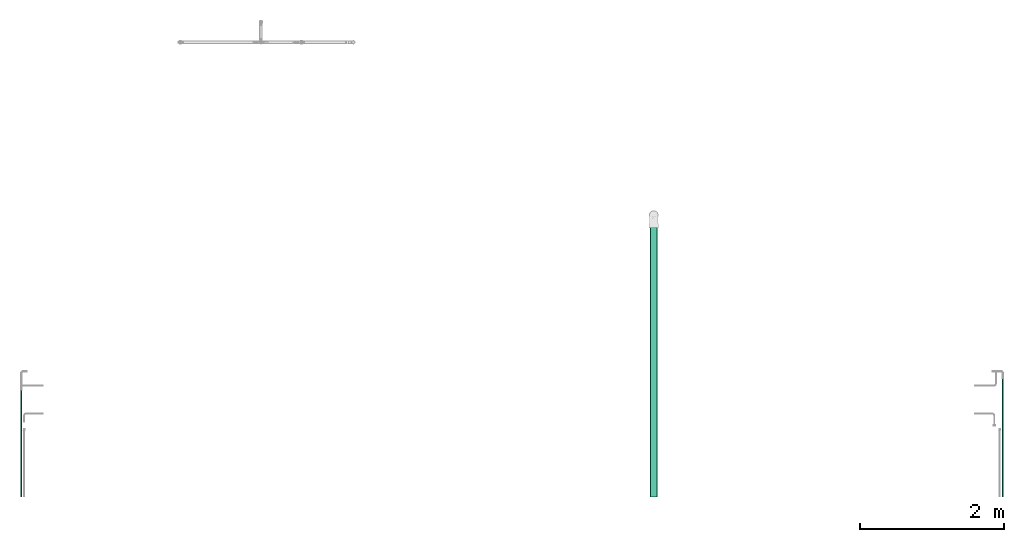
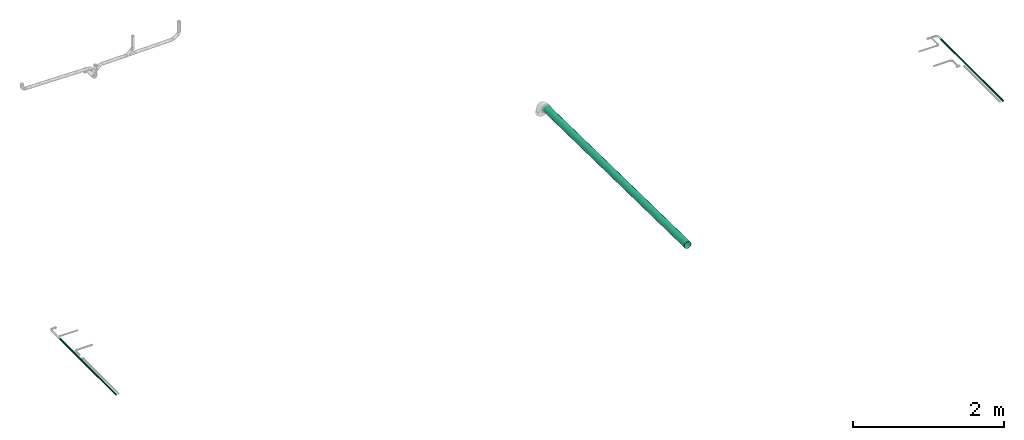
# One storey, part 10 of 13: 3 flow segments.
"""IFC2X3 building model written with IfcOpenShell, lengths in millimetres."""

from ifc_helpers import new_model, entity, si_unit, converted_unit, derived_unit, direction, frame, place, context, subcontext, project, spatial, faceted_brep, type_object, element, save


model = new_model("IFC2X3")

# Units and contexts
model_context = context("Model", 3, precision=0.01, world=frame((0.0, 4.29681676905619e-09, 0.0)), true_north=direction((4.01073788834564e-13, 1.0)))
plan_context = context("Plan", 3, precision=0.01, world=frame((0.0, 4.29681676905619e-09, 0.0)), true_north=direction((4.01073788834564e-13, 1.0)))
body_context = subcontext(model_context, "Body", "Model", "MODEL_VIEW")
ifc_project = project(units=[converted_unit("PLANEANGLEUNIT", "DEGREE", entity("IfcPositiveLengthMeasure", 0.0174532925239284), si_unit("PLANEANGLEUNIT", "RADIAN"), dimensions=[0, 0, 0, 0, 0, 0, 0]), si_unit("AREAUNIT", "SQUARE_METRE"), si_unit("LENGTHUNIT", "METRE", prefix="MILLI"), si_unit("MASSUNIT", "GRAM", prefix="KILO"), si_unit("POWERUNIT", "WATT"), si_unit("PRESSUREUNIT", "PASCAL", prefix="KILO"), si_unit("FORCEUNIT", "NEWTON", prefix="KILO"), si_unit("ELECTRICVOLTAGEUNIT", "VOLT"), si_unit("ELECTRICCURRENTUNIT", "AMPERE"), si_unit("THERMODYNAMICTEMPERATUREUNIT", "DEGREE_CELSIUS"), si_unit("TIMEUNIT", "SECOND"), si_unit("VOLUMEUNIT", "CUBIC_METRE"), derived_unit("LINEARVELOCITYUNIT", [(si_unit("LENGTHUNIT", "METRE"), 1), (si_unit("TIMEUNIT", "SECOND"), -1)]), derived_unit("VOLUMETRICFLOWRATEUNIT", [(si_unit("VOLUMEUNIT", "CUBIC_METRE"), 1), (si_unit("TIMEUNIT", "SECOND"), -1)]), derived_unit("THERMALTRANSMITTANCEUNIT", [(si_unit("POWERUNIT", "WATT"), 1), (si_unit("THERMODYNAMICTEMPERATUREUNIT", "KELVIN"), -1), (si_unit("AREAUNIT", "SQUARE_METRE"), -1)]), derived_unit("SOUNDPRESSUREUNIT", [(si_unit("PRESSUREUNIT", "PASCAL"), 1)])], contexts=[model_context, plan_context])

# Site, building, storey
site_placement = place(None, frame((0.0, -4.29681676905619e-09, 0.0), z_axis=(0.0, 0.0, 1.0), x_axis=(1.0, 0.0, 0.0)))
site = spatial("IfcSite", under=ifc_project, at=site_placement, Name="ENGM", CompositionType="ELEMENT")
building_placement = place(site_placement, frame((0.0, 4.29681676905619e-09, 0.0), z_axis=(0.0, 0.0, 1.0), x_axis=(1.0, 0.0, 0.0)))
building = spatial("IfcBuilding", under=site, at=building_placement, Name="TI", CompositionType="ELEMENT")
storey_placement = place(building_placement, frame((0.0, 0.0, 210900.0), z_axis=(0.0, 0.0, 1.0), x_axis=(1.0, 0.0, 0.0)))
storey = spatial("IfcBuildingStorey", under=building, at=storey_placement, Name="Nivå F", CompositionType="ELEMENT", Elevation=210900.0)

# Flow segments
pipe_segment_type_1 = type_object("IfcPipeSegmentType", Name="MA", PredefinedType="RIGIDSEGMENT")
flow_segment_1_placement = place(storey_placement, frame((594026.69598, 563050.93344, -580.901530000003), z_axis=(0.0, 0.0166640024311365, 0.999861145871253), x_axis=(0.0, 0.999861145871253, -0.0166640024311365)))
element("IfcFlowSegment", 1, at=flow_segment_1_placement, inside=storey, type_object=pipe_segment_type_1, Name="MA", context=body_context, shape_type="Brep", body=[
    faceted_brep([(6680.1456215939, 52.194810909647, -9.20335341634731), (6679.99223559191, 53.0, 0.0), (10467.1, 53.0, 0.0), (10467.1, 52.194810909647, -9.20335341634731), (6680.29434703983, 49.8037089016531, -18.1270675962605), (10467.1, 49.8037089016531, -18.1270675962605), (6680.43389298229, 45.8993464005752, -26.5), (10467.1, 45.8993464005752, -26.5), (6680.56001938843, 40.6003554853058, -34.0677433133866), (10467.1, 40.6003554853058, -34.0677433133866), (6680.66889397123, 34.0677433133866, -40.6003554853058), (10467.1, 34.0677433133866, -40.6003554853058), (6680.75720863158, 26.5, -45.8993464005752), (10467.1, 26.5, -45.8993464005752), (6680.82227997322, 18.1270675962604, -49.8037089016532), (10467.1, 18.1270675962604, -49.8037089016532), (6680.86213083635, 9.20335341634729, -52.194810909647), (10467.1, 9.20335341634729, -52.194810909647), (6680.87555037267, -9.73594205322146e-15, -53.0), (10467.1, -9.73594205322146e-15, -53.0), (6680.86213083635, -9.20335341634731, -52.194810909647), (10467.1, -9.20335341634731, -52.194810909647), (6680.82227997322, -18.1270675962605, -49.8037089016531), (10467.1, -18.1270675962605, -49.8037089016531), (6680.75720863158, -26.5, -45.8993464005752), (10467.1, -26.5, -45.8993464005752), (6680.66889397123, -34.0677433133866, -40.6003554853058), (10467.1, -34.0677433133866, -40.6003554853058), (6680.56001938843, -40.6003554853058, -34.0677433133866), (10467.1, -40.6003554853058, -34.0677433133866), (6680.43389298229, -45.8993464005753, -26.5), (10467.1, -45.8993464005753, -26.5), (6680.29434703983, -49.8037089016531, -18.1270675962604), (10467.1, -49.8037089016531, -18.1270675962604), (6680.1456215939, -52.194810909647, -9.20335341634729), (10467.1, -52.194810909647, -9.20335341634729), (6679.99223559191, -53.0, 6.49062803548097e-15), (10467.1, -53.0, 6.49062803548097e-15), (6679.83884958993, -52.194810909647, 9.20335341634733), (10467.1, -52.194810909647, 9.20335341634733), (6679.690124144, -49.8037089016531, 18.1270675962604), (10467.1, -49.8037089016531, 18.1270675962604), (6679.55057820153, -45.8993464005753, 26.5), (10467.1, -45.8993464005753, 26.5), (6679.42445179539, -40.6003554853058, 34.0677433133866), (10467.1, -40.6003554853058, 34.0677433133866), (6679.31557721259, -34.0677433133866, 40.6003554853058), (10467.1, -34.0677433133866, 40.6003554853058), (6679.22726255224, -26.5, 45.8993464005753), (10467.1, -26.5, 45.8993464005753), (6679.1621912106, -18.1270675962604, 49.8037089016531), (10467.1, -18.1270675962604, 49.8037089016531), (6679.12234034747, -9.20335341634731, 52.194810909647), (10467.1, -9.20335341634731, 52.194810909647), (6679.10892081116, 3.24531401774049e-15, 53.0), (10467.1, 3.24531401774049e-15, 53.0), (6679.12234034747, 9.20335341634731, 52.194810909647), (10467.1, 9.20335341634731, 52.194810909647), (6679.1621912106, 18.1270675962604, 49.8037089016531), (10467.1, 18.1270675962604, 49.8037089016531), (6679.22726255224, 26.5, 45.8993464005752), (10467.1, 26.5, 45.8993464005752), (6679.31557721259, 34.0677433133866, 40.6003554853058), (10467.1, 34.0677433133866, 40.6003554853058), (6679.42445179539, 40.6003554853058, 34.0677433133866), (10467.1, 40.6003554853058, 34.0677433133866), (6679.55057820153, 45.8993464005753, 26.5), (10467.1, 45.8993464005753, 26.5), (6679.690124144, 49.8037089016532, 18.1270675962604), (10467.1, 49.8037089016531, 18.1270675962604), (6679.83884958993, 52.194810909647, 9.20335341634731), (10467.1, 52.194810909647, 9.20335341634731), (6679.99223559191, 55.0, 0.0), (6680.15140974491, 54.1644264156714, -9.55064977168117), (10467.1, 54.1644264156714, -9.55064977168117), (10467.1, 55.0, 0.0), (6679.83306143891, 54.1644264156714, 9.55064977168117), (10467.1, 54.1644264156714, 9.55064977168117), (6679.678723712, 51.683094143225, 18.8111078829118), (10467.1, 51.683094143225, 18.8111078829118), (6679.53391188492, 47.6313972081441, 27.5), (10467.1, 47.6313972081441, 27.5), (6679.40302599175, 42.1324443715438, 35.3533185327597), (10467.1, 42.1324443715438, 35.3533185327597), (6679.29004293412, 35.3533185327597, 42.1324443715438), (10467.1, 35.3533185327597, 42.1324443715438), (6679.19839564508, 27.5, 47.6313972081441), (10467.1, 27.5, 47.6313972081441), (6679.13086878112, 18.8111078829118, 51.683094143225), (10467.1, 18.8111078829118, 51.683094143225), (6679.08951411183, 9.55064977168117, 54.1644264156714), (10467.1, 9.55064977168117, 54.1644264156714), (6679.07558817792, 3.36777869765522e-15, 55.0), (10467.1, 3.36777869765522e-15, 55.0), (6679.08951411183, -9.55064977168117, 54.1644264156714), (10467.1, -9.55064977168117, 54.1644264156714), (6679.13086878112, -18.8111078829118, 51.683094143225), (10467.1, -18.8111078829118, 51.683094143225), (6679.19839564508, -27.5, 47.6313972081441), (10467.1, -27.5, 47.6313972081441), (6679.29004293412, -35.3533185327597, 42.1324443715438), (10467.1, -35.3533185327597, 42.1324443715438), (6679.40302599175, -42.1324443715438, 35.3533185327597), (10467.1, -42.1324443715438, 35.3533185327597), (6679.53391188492, -47.6313972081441, 27.5), (10467.1, -47.6313972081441, 27.5), (6679.678723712, -51.6830941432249, 18.8111078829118), (10467.1, -51.683094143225, 18.8111078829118), (6679.83306143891, -54.1644264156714, 9.55064977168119), (10467.1, -54.1644264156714, 9.55064977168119), (6679.99223559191, -55.0, 6.73555739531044e-15), (10467.1, -55.0, 6.73555739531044e-15), (6680.15140974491, -54.1644264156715, -9.55064977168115), (10467.1, -54.1644264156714, -9.55064977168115), (6680.30574747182, -51.683094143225, -18.8111078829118), (10467.1, -51.683094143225, -18.8111078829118), (6680.45055929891, -47.6313972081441, -27.5), (10467.1, -47.6313972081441, -27.5), (6680.58144519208, -42.1324443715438, -35.3533185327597), (10467.1, -42.1324443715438, -35.3533185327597), (6680.6944282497, -35.3533185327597, -42.1324443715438), (10467.1, -35.3533185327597, -42.1324443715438), (6680.78607553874, -27.5, -47.6313972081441), (10467.1, -27.5, -47.6313972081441), (6680.8536024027, -18.8111078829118, -51.6830941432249), (10467.1, -18.8111078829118, -51.6830941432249), (6680.89495707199, -9.55064977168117, -54.1644264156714), (10467.1, -9.55064977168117, -54.1644264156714), (6680.9088830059, -1.01033360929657e-14, -55.0), (10467.1, -1.01033360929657e-14, -55.0), (6680.89495707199, 9.55064977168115, -54.1644264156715), (10467.1, 9.55064977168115, -54.1644264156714), (6680.8536024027, 18.8111078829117, -51.683094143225), (10467.1, 18.8111078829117, -51.683094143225), (6680.78607553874, 27.5, -47.6313972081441), (10467.1, 27.5, -47.6313972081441), (6680.6944282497, 35.3533185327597, -42.1324443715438), (10467.1, 35.3533185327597, -42.1324443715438), (6680.58144519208, 42.1324443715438, -35.3533185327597), (10467.1, 42.1324443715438, -35.3533185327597), (6680.45055929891, 47.6313972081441, -27.5), (10467.1, 47.6313972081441, -27.5), (6680.30574747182, 51.6830941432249, -18.8111078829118), (10467.1, 51.6830941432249, -18.8111078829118)], [[[0, 1, 2, 3]], [[4, 0, 3, 5]], [[6, 4, 5, 7]], [[8, 6, 7, 9]], [[10, 8, 9, 11]], [[12, 10, 11, 13]], [[14, 12, 13, 15]], [[16, 14, 15, 17]], [[18, 16, 17, 19]], [[20, 18, 19, 21]], [[22, 20, 21, 23]], [[24, 22, 23, 25]], [[26, 24, 25, 27]], [[28, 26, 27, 29]], [[30, 28, 29, 31]], [[32, 30, 31, 33]], [[34, 32, 33, 35]], [[36, 34, 35, 37]], [[38, 36, 37, 39]], [[40, 38, 39, 41]], [[42, 40, 41, 43]], [[44, 42, 43, 45]], [[46, 44, 45, 47]], [[48, 46, 47, 49]], [[50, 48, 49, 51]], [[52, 50, 51, 53]], [[54, 52, 53, 55]], [[56, 54, 55, 57]], [[58, 56, 57, 59]], [[60, 58, 59, 61]], [[62, 60, 61, 63]], [[64, 62, 63, 65]], [[66, 64, 65, 67]], [[68, 66, 67, 69]], [[70, 68, 69, 71]], [[1, 70, 71, 2]], [[72, 73, 74, 75]], [[76, 72, 75, 77]], [[78, 76, 77, 79]], [[80, 78, 79, 81]], [[82, 80, 81, 83]], [[84, 82, 83, 85]], [[86, 84, 85, 87]], [[88, 86, 87, 89]], [[90, 88, 89, 91]], [[92, 90, 91, 93]], [[94, 92, 93, 95]], [[96, 94, 95, 97]], [[98, 96, 97, 99]], [[100, 98, 99, 101]], [[102, 100, 101, 103]], [[104, 102, 103, 105]], [[106, 104, 105, 107]], [[108, 106, 107, 109]], [[110, 108, 109, 111]], [[112, 110, 111, 113]], [[114, 112, 113, 115]], [[116, 114, 115, 117]], [[118, 116, 117, 119]], [[120, 118, 119, 121]], [[122, 120, 121, 123]], [[124, 122, 123, 125]], [[126, 124, 125, 127]], [[128, 126, 127, 129]], [[130, 128, 129, 131]], [[132, 130, 131, 133]], [[134, 132, 133, 135]], [[136, 134, 135, 137]], [[138, 136, 137, 139]], [[140, 138, 139, 141]], [[142, 140, 141, 143]], [[73, 142, 143, 74]], [[75, 74, 143, 141, 139, 137, 135, 133, 131, 129, 127, 125, 123, 121, 119, 117, 115, 113, 111, 109, 107, 105, 103, 101, 99, 97, 95, 93, 91, 89, 87, 85, 83, 81, 79, 77], [2, 71, 69, 67, 65, 63, 61, 59, 57, 55, 53, 51, 49, 47, 45, 43, 41, 39, 37, 35, 33, 31, 29, 27, 25, 23, 21, 19, 17, 15, 13, 11, 9, 7, 5, 3]], [[76, 78, 80, 82, 84, 86, 88, 90, 92, 94, 96, 98, 100, 102, 104, 106, 108, 110, 112, 114, 116, 118, 120, 122, 124, 126, 128, 130, 132, 134, 136, 138, 140, 142, 73, 72], [4, 6, 8, 10, 12, 14, 16, 18, 20, 22, 24, 26, 28, 30, 32, 34, 36, 38, 40, 42, 44, 46, 48, 50, 52, 54, 56, 58, 60, 62, 64, 66, 68, 70, 1, 0]]], orient=[[False], [False], [False], [False], [False], [False], [False], [False], [False], [False], [False], [False], [False], [False], [False], [False], [False], [False], [False], [False], [False], [False], [False], [False], [False], [False], [False], [False], [False], [False], [False], [False], [False], [False], [False], [False], [False], [False], [False], [False], [False], [False], [False], [False], [False], [False], [False], [False], [False], [False], [False], [False], [False], [False], [False], [False], [False], [False], [False], [False], [False], [False], [False], [False], [False], [False], [False], [False], [False], [False], [False], [False], [False, False], [False, False]]),
])
pipe_segment_type_2 = type_object("IfcPipeSegmentType", Name="Stålrør normaltykke", PredefinedType="RIGIDSEGMENT")
flow_segment_2_placement = place(storey_placement, frame((598861.17776, 571374.94168, -48.6000000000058), z_axis=(0.0, 0.0, 1.0), x_axis=(0.0, -1.0, 0.0)))
element("IfcFlowSegment", 2, at=flow_segment_2_placement, inside=storey, type_object=pipe_segment_type_2, Name="Stålrør normaltykke", context=body_context, shape_type="Brep", body=[
    faceted_brep([(1644.94354890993, 11.3, 0.0), (1644.94354890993, 11.128327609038, -1.96222440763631), (0.0, 11.128327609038, -1.96222440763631), (0.0, 11.3, 0.0), (1644.94354890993, 10.6185266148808, -3.86482761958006), (0.0, 10.6185266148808, -3.86482761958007), (1644.94354890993, 9.78608706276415, -5.65000000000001), (0.0, 9.78608706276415, -5.65000000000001), (1644.94354890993, 8.65630220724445, -7.2634999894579), (0.0, 8.65630220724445, -7.2634999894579), (1644.94354890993, 7.26349998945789, -8.65630220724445), (0.0, 7.26349998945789, -8.65630220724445), (1644.94354890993, 5.65, -9.78608706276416), (0.0, 5.65, -9.78608706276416), (1644.94354890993, 3.86482761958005, -10.6185266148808), (0.0, 3.86482761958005, -10.6185266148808), (1644.94354890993, 1.96222440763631, -11.128327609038), (0.0, 1.96222440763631, -11.128327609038), (1644.94354890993, -2.07577632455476e-15, -11.3), (0.0, -2.07577632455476e-15, -11.3), (1644.94354890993, -1.96222440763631, -11.128327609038), (0.0, -1.96222440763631, -11.128327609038), (1644.94354890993, -3.86482761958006, -10.6185266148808), (0.0, -3.86482761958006, -10.6185266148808), (1644.94354890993, -5.65000000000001, -9.78608706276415), (0.0, -5.65000000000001, -9.78608706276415), (1644.94354890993, -7.2634999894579, -8.65630220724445), (0.0, -7.2634999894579, -8.65630220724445), (1644.94354890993, -8.65630220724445, -7.26349998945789), (0.0, -8.65630220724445, -7.26349998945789), (1644.94354890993, -9.78608706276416, -5.65), (0.0, -9.78608706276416, -5.65), (1644.94354890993, -10.6185266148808, -3.86482761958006), (0.0, -10.6185266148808, -3.86482761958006), (1644.94354890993, -11.128327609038, -1.96222440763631), (0.0, -11.128327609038, -1.96222440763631), (1644.94354890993, -11.3, 1.38385088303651e-15), (0.0, -11.3, 1.38385088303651e-15), (1644.94354890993, -11.128327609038, 1.96222440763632), (0.0, -11.128327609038, 1.96222440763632), (1644.94354890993, -10.6185266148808, 3.86482761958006), (0.0, -10.6185266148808, 3.86482761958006), (1644.94354890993, -9.78608706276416, 5.65), (0.0, -9.78608706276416, 5.65), (1644.94354890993, -8.65630220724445, 7.2634999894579), (0.0, -8.65630220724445, 7.2634999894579), (1644.94354890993, -7.2634999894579, 8.65630220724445), (0.0, -7.2634999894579, 8.65630220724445), (1644.94354890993, -5.65, 9.78608706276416), (0.0, -5.65, 9.78608706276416), (1644.94354890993, -3.86482761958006, 10.6185266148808), (0.0, -3.86482761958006, 10.6185266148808), (1644.94354890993, -1.96222440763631, 11.128327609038), (0.0, -1.96222440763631, 11.128327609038), (1644.94354890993, 6.91925441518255e-16, 11.3), (0.0, 6.91925441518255e-16, 11.3), (1644.94354890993, 1.96222440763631, 11.128327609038), (0.0, 1.96222440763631, 11.128327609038), (1644.94354890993, 3.86482761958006, 10.6185266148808), (0.0, 3.86482761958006, 10.6185266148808), (1644.94354890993, 5.65, 9.78608706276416), (0.0, 5.65, 9.78608706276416), (1644.94354890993, 7.2634999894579, 8.65630220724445), (0.0, 7.2634999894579, 8.65630220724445), (1644.94354890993, 8.65630220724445, 7.26349998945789), (0.0, 8.65630220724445, 7.26349998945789), (1644.94354890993, 9.78608706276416, 5.65), (0.0, 9.78608706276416, 5.65), (1644.94354890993, 10.6185266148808, 3.86482761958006), (0.0, 10.6185266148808, 3.86482761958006), (1644.94354890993, 11.128327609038, 1.96222440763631), (0.0, 11.128327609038, 1.96222440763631), (1644.94354890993, 13.0979431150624, -2.30952076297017), (1644.94354890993, 13.3, 0.0), (0.0, 13.3, 0.0), (0.0, 13.0979431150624, -2.30952076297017), (1644.94354890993, 13.0979431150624, 2.30952076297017), (0.0, 13.0979431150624, 2.30952076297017), (1644.94354890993, 12.4979118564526, 4.54886790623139), (0.0, 12.4979118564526, 4.54886790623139), (1644.94354890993, 11.518137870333, 6.65), (0.0, 11.518137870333, 6.65), (1644.94354890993, 10.1883910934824, 8.54907520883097), (0.0, 10.1883910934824, 8.54907520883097), (1644.94354890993, 8.54907520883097, 10.1883910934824), (0.0, 8.54907520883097, 10.1883910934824), (1644.94354890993, 6.65, 11.518137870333), (0.0, 6.65, 11.518137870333), (1644.94354890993, 4.5488679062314, 12.4979118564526), (0.0, 4.5488679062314, 12.4979118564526), (1644.94354890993, 2.30952076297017, 13.0979431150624), (0.0, 2.30952076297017, 13.0979431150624), (1644.94354890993, 8.1439012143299e-16, 13.3), (0.0, 8.1439012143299e-16, 13.3), (1644.94354890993, -2.30952076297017, 13.0979431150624), (0.0, -2.30952076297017, 13.0979431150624), (1644.94354890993, -4.54886790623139, 12.4979118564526), (0.0, -4.54886790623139, 12.4979118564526), (1644.94354890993, -6.65, 11.518137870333), (0.0, -6.65, 11.518137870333), (1644.94354890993, -8.54907520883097, 10.1883910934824), (0.0, -8.54907520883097, 10.1883910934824), (1644.94354890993, -10.1883910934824, 8.54907520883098), (0.0, -10.1883910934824, 8.54907520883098), (1644.94354890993, -11.518137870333, 6.65), (0.0, -11.518137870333, 6.65), (1644.94354890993, -12.4979118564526, 4.5488679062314), (0.0, -12.4979118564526, 4.5488679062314), (1644.94354890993, -13.0979431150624, 2.30952076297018), (0.0, -13.0979431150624, 2.30952076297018), (1644.94354890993, -13.3, 1.62878024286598e-15), (0.0, -13.3, 1.62878024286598e-15), (1644.94354890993, -13.0979431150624, -2.30952076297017), (0.0, -13.0979431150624, -2.30952076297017), (1644.94354890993, -12.4979118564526, -4.54886790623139), (0.0, -12.4979118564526, -4.54886790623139), (1644.94354890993, -11.518137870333, -6.65), (0.0, -11.518137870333, -6.65), (1644.94354890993, -10.1883910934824, -8.54907520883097), (0.0, -10.1883910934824, -8.54907520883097), (1644.94354890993, -8.54907520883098, -10.1883910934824), (0.0, -8.54907520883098, -10.1883910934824), (1644.94354890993, -6.65000000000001, -11.518137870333), (0.0, -6.65000000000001, -11.518137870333), (1644.94354890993, -4.5488679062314, -12.4979118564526), (0.0, -4.5488679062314, -12.4979118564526), (1644.94354890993, -2.30952076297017, -13.0979431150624), (0.0, -2.30952076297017, -13.0979431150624), (1644.94354890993, -2.44317036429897e-15, -13.3), (0.0, -2.44317036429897e-15, -13.3), (1644.94354890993, 2.30952076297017, -13.0979431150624), (0.0, 2.30952076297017, -13.0979431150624), (1644.94354890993, 4.54886790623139, -12.4979118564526), (0.0, 4.54886790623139, -12.4979118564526), (1644.94354890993, 6.65, -11.518137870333), (0.0, 6.65, -11.518137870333), (1644.94354890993, 8.54907520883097, -10.1883910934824), (0.0, 8.54907520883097, -10.1883910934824), (1644.94354890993, 10.1883910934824, -8.54907520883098), (0.0, 10.1883910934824, -8.54907520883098), (1644.94354890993, 11.518137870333, -6.65000000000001), (0.0, 11.518137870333, -6.65000000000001), (1644.94354890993, 12.4979118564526, -4.5488679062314), (0.0, 12.4979118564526, -4.5488679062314)], [[[0, 1, 2, 3]], [[1, 4, 5, 2]], [[4, 6, 7, 5]], [[6, 8, 9, 7]], [[8, 10, 11, 9]], [[10, 12, 13, 11]], [[12, 14, 15, 13]], [[14, 16, 17, 15]], [[16, 18, 19, 17]], [[18, 20, 21, 19]], [[20, 22, 23, 21]], [[22, 24, 25, 23]], [[24, 26, 27, 25]], [[26, 28, 29, 27]], [[28, 30, 31, 29]], [[30, 32, 33, 31]], [[32, 34, 35, 33]], [[34, 36, 37, 35]], [[36, 38, 39, 37]], [[38, 40, 41, 39]], [[40, 42, 43, 41]], [[42, 44, 45, 43]], [[44, 46, 47, 45]], [[46, 48, 49, 47]], [[48, 50, 51, 49]], [[50, 52, 53, 51]], [[52, 54, 55, 53]], [[54, 56, 57, 55]], [[56, 58, 59, 57]], [[58, 60, 61, 59]], [[60, 62, 63, 61]], [[62, 64, 65, 63]], [[64, 66, 67, 65]], [[66, 68, 69, 67]], [[68, 70, 71, 69]], [[70, 0, 3, 71]], [[72, 73, 74, 75]], [[73, 76, 77, 74]], [[76, 78, 79, 77]], [[78, 80, 81, 79]], [[80, 82, 83, 81]], [[82, 84, 85, 83]], [[84, 86, 87, 85]], [[86, 88, 89, 87]], [[88, 90, 91, 89]], [[90, 92, 93, 91]], [[92, 94, 95, 93]], [[94, 96, 97, 95]], [[96, 98, 99, 97]], [[98, 100, 101, 99]], [[100, 102, 103, 101]], [[102, 104, 105, 103]], [[104, 106, 107, 105]], [[106, 108, 109, 107]], [[108, 110, 111, 109]], [[110, 112, 113, 111]], [[112, 114, 115, 113]], [[114, 116, 117, 115]], [[116, 118, 119, 117]], [[118, 120, 121, 119]], [[120, 122, 123, 121]], [[122, 124, 125, 123]], [[124, 126, 127, 125]], [[126, 128, 129, 127]], [[128, 130, 131, 129]], [[130, 132, 133, 131]], [[132, 134, 135, 133]], [[134, 136, 137, 135]], [[136, 138, 139, 137]], [[138, 140, 141, 139]], [[140, 142, 143, 141]], [[142, 72, 75, 143]], [[75, 74, 77, 79, 81, 83, 85, 87, 89, 91, 93, 95, 97, 99, 101, 103, 105, 107, 109, 111, 113, 115, 117, 119, 121, 123, 125, 127, 129, 131, 133, 135, 137, 139, 141, 143], [3, 2, 5, 7, 9, 11, 13, 15, 17, 19, 21, 23, 25, 27, 29, 31, 33, 35, 37, 39, 41, 43, 45, 47, 49, 51, 53, 55, 57, 59, 61, 63, 65, 67, 69, 71]], [[142, 140, 138, 136, 134, 132, 130, 128, 126, 124, 122, 120, 118, 116, 114, 112, 110, 108, 106, 104, 102, 100, 98, 96, 94, 92, 90, 88, 86, 84, 82, 80, 78, 76, 73, 72], [70, 68, 66, 64, 62, 60, 58, 56, 54, 52, 50, 48, 46, 44, 42, 40, 38, 36, 34, 32, 30, 28, 26, 24, 22, 20, 18, 16, 14, 12, 10, 8, 6, 4, 1, 0]]], orient=[[False], [False], [False], [False], [False], [False], [False], [False], [False], [False], [False], [False], [False], [False], [False], [False], [False], [False], [False], [False], [False], [False], [False], [False], [False], [False], [False], [False], [False], [False], [False], [False], [False], [False], [False], [False], [False], [False], [False], [False], [False], [False], [False], [False], [False], [False], [False], [False], [False], [False], [False], [False], [False], [False], [False], [False], [False], [False], [False], [False], [False], [False], [False], [False], [False], [False], [False], [False], [False], [False], [False], [False], [False, False], [False, False]]),
])
flow_segment_3_placement = place(storey_placement, frame((585266.17776, 571214.94168, -48.6000000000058), z_axis=(0.0, 0.0, 1.0), x_axis=(0.0, -1.0, 0.0)))
element("IfcFlowSegment", 3, at=flow_segment_3_placement, inside=storey, type_object=pipe_segment_type_2, Name="Stålrør normaltykke", context=body_context, shape_type="Brep", body=[
    faceted_brep([(1484.94354890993, 11.3, 0.0), (1484.94354890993, 11.128327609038, -1.96222440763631), (0.0, 11.128327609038, -1.96222440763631), (0.0, 11.3, 0.0), (1484.94354890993, 10.6185266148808, -3.86482761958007), (0.0, 10.6185266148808, -3.86482761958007), (1484.94354890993, 9.78608706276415, -5.65000000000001), (0.0, 9.78608706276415, -5.65000000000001), (1484.94354890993, 8.65630220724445, -7.2634999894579), (0.0, 8.65630220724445, -7.2634999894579), (1484.94354890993, 7.26349998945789, -8.65630220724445), (0.0, 7.26349998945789, -8.65630220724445), (1484.94354890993, 5.65, -9.78608706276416), (0.0, 5.65, -9.78608706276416), (1484.94354890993, 3.86482761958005, -10.6185266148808), (0.0, 3.86482761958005, -10.6185266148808), (1484.94354890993, 1.96222440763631, -11.128327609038), (0.0, 1.96222440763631, -11.128327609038), (1484.94354890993, -2.07577632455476e-15, -11.3), (0.0, -2.07577632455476e-15, -11.3), (1484.94354890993, -1.96222440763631, -11.128327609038), (0.0, -1.96222440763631, -11.128327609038), (1484.94354890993, -3.86482761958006, -10.6185266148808), (0.0, -3.86482761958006, -10.6185266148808), (1484.94354890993, -5.65000000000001, -9.78608706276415), (0.0, -5.65000000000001, -9.78608706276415), (1484.94354890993, -7.2634999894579, -8.65630220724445), (0.0, -7.2634999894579, -8.65630220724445), (1484.94354890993, -8.65630220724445, -7.26349998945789), (0.0, -8.65630220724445, -7.26349998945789), (1484.94354890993, -9.78608706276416, -5.65), (0.0, -9.78608706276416, -5.65), (1484.94354890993, -10.6185266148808, -3.86482761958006), (0.0, -10.6185266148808, -3.86482761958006), (1484.94354890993, -11.128327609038, -1.96222440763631), (0.0, -11.128327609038, -1.96222440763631), (1484.94354890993, -11.3, 1.38385088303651e-15), (0.0, -11.3, 1.38385088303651e-15), (1484.94354890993, -11.128327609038, 1.96222440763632), (0.0, -11.128327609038, 1.96222440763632), (1484.94354890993, -10.6185266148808, 3.86482761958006), (0.0, -10.6185266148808, 3.86482761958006), (1484.94354890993, -9.78608706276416, 5.65), (0.0, -9.78608706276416, 5.65), (1484.94354890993, -8.65630220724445, 7.2634999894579), (0.0, -8.65630220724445, 7.2634999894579), (1484.94354890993, -7.2634999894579, 8.65630220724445), (0.0, -7.2634999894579, 8.65630220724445), (1484.94354890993, -5.65, 9.78608706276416), (0.0, -5.65, 9.78608706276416), (1484.94354890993, -3.86482761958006, 10.6185266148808), (0.0, -3.86482761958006, 10.6185266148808), (1484.94354890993, -1.96222440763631, 11.128327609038), (0.0, -1.96222440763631, 11.128327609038), (1484.94354890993, 6.91925441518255e-16, 11.3), (0.0, 6.91925441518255e-16, 11.3), (1484.94354890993, 1.96222440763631, 11.128327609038), (0.0, 1.96222440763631, 11.128327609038), (1484.94354890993, 3.86482761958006, 10.6185266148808), (0.0, 3.86482761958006, 10.6185266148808), (1484.94354890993, 5.65, 9.78608706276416), (0.0, 5.65, 9.78608706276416), (1484.94354890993, 7.2634999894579, 8.65630220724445), (0.0, 7.2634999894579, 8.65630220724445), (1484.94354890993, 8.65630220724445, 7.26349998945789), (0.0, 8.65630220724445, 7.26349998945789), (1484.94354890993, 9.78608706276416, 5.65), (0.0, 9.78608706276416, 5.65), (1484.94354890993, 10.6185266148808, 3.86482761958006), (0.0, 10.6185266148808, 3.86482761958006), (1484.94354890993, 11.128327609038, 1.96222440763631), (0.0, 11.128327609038, 1.96222440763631), (1484.94354890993, 13.0979431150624, -2.30952076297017), (1484.94354890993, 13.3, 0.0), (0.0, 13.3, 0.0), (0.0, 13.0979431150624, -2.30952076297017), (1484.94354890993, 13.0979431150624, 2.30952076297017), (0.0, 13.0979431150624, 2.30952076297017), (1484.94354890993, 12.4979118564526, 4.54886790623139), (0.0, 12.4979118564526, 4.54886790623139), (1484.94354890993, 11.518137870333, 6.65), (0.0, 11.518137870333, 6.65), (1484.94354890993, 10.1883910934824, 8.54907520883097), (0.0, 10.1883910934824, 8.54907520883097), (1484.94354890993, 8.54907520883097, 10.1883910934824), (0.0, 8.54907520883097, 10.1883910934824), (1484.94354890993, 6.65, 11.518137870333), (0.0, 6.65, 11.518137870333), (1484.94354890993, 4.5488679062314, 12.4979118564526), (0.0, 4.5488679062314, 12.4979118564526), (1484.94354890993, 2.30952076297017, 13.0979431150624), (0.0, 2.30952076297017, 13.0979431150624), (1484.94354890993, 8.1439012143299e-16, 13.3), (0.0, 8.1439012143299e-16, 13.3), (1484.94354890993, -2.30952076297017, 13.0979431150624), (0.0, -2.30952076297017, 13.0979431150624), (1484.94354890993, -4.54886790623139, 12.4979118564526), (0.0, -4.54886790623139, 12.4979118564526), (1484.94354890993, -6.65, 11.518137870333), (0.0, -6.65, 11.518137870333), (1484.94354890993, -8.54907520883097, 10.1883910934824), (0.0, -8.54907520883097, 10.1883910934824), (1484.94354890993, -10.1883910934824, 8.54907520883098), (0.0, -10.1883910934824, 8.54907520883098), (1484.94354890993, -11.518137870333, 6.65), (0.0, -11.518137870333, 6.65), (1484.94354890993, -12.4979118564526, 4.5488679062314), (0.0, -12.4979118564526, 4.5488679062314), (1484.94354890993, -13.0979431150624, 2.30952076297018), (0.0, -13.0979431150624, 2.30952076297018), (1484.94354890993, -13.3, 1.62878024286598e-15), (0.0, -13.3, 1.62878024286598e-15), (1484.94354890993, -13.0979431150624, -2.30952076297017), (0.0, -13.0979431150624, -2.30952076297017), (1484.94354890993, -12.4979118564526, -4.54886790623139), (0.0, -12.4979118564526, -4.54886790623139), (1484.94354890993, -11.518137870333, -6.65), (0.0, -11.518137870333, -6.65), (1484.94354890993, -10.1883910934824, -8.54907520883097), (0.0, -10.1883910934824, -8.54907520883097), (1484.94354890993, -8.54907520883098, -10.1883910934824), (0.0, -8.54907520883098, -10.1883910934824), (1484.94354890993, -6.65000000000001, -11.518137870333), (0.0, -6.65000000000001, -11.518137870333), (1484.94354890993, -4.5488679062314, -12.4979118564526), (0.0, -4.5488679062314, -12.4979118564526), (1484.94354890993, -2.30952076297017, -13.0979431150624), (0.0, -2.30952076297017, -13.0979431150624), (1484.94354890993, -2.44317036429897e-15, -13.3), (0.0, -2.44317036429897e-15, -13.3), (1484.94354890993, 2.30952076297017, -13.0979431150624), (0.0, 2.30952076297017, -13.0979431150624), (1484.94354890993, 4.54886790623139, -12.4979118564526), (0.0, 4.54886790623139, -12.4979118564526), (1484.94354890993, 6.65, -11.518137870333), (0.0, 6.65, -11.518137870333), (1484.94354890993, 8.54907520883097, -10.1883910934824), (0.0, 8.54907520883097, -10.1883910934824), (1484.94354890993, 10.1883910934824, -8.54907520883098), (0.0, 10.1883910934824, -8.54907520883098), (1484.94354890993, 11.518137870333, -6.65000000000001), (0.0, 11.518137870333, -6.65000000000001), (1484.94354890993, 12.4979118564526, -4.5488679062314), (0.0, 12.4979118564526, -4.5488679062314)], [[[0, 1, 2, 3]], [[1, 4, 5, 2]], [[4, 6, 7, 5]], [[6, 8, 9, 7]], [[8, 10, 11, 9]], [[10, 12, 13, 11]], [[12, 14, 15, 13]], [[14, 16, 17, 15]], [[16, 18, 19, 17]], [[18, 20, 21, 19]], [[20, 22, 23, 21]], [[22, 24, 25, 23]], [[24, 26, 27, 25]], [[26, 28, 29, 27]], [[28, 30, 31, 29]], [[30, 32, 33, 31]], [[32, 34, 35, 33]], [[34, 36, 37, 35]], [[36, 38, 39, 37]], [[38, 40, 41, 39]], [[40, 42, 43, 41]], [[42, 44, 45, 43]], [[44, 46, 47, 45]], [[46, 48, 49, 47]], [[48, 50, 51, 49]], [[50, 52, 53, 51]], [[52, 54, 55, 53]], [[54, 56, 57, 55]], [[56, 58, 59, 57]], [[58, 60, 61, 59]], [[60, 62, 63, 61]], [[62, 64, 65, 63]], [[64, 66, 67, 65]], [[66, 68, 69, 67]], [[68, 70, 71, 69]], [[70, 0, 3, 71]], [[72, 73, 74, 75]], [[73, 76, 77, 74]], [[76, 78, 79, 77]], [[78, 80, 81, 79]], [[80, 82, 83, 81]], [[82, 84, 85, 83]], [[84, 86, 87, 85]], [[86, 88, 89, 87]], [[88, 90, 91, 89]], [[90, 92, 93, 91]], [[92, 94, 95, 93]], [[94, 96, 97, 95]], [[96, 98, 99, 97]], [[98, 100, 101, 99]], [[100, 102, 103, 101]], [[102, 104, 105, 103]], [[104, 106, 107, 105]], [[106, 108, 109, 107]], [[108, 110, 111, 109]], [[110, 112, 113, 111]], [[112, 114, 115, 113]], [[114, 116, 117, 115]], [[116, 118, 119, 117]], [[118, 120, 121, 119]], [[120, 122, 123, 121]], [[122, 124, 125, 123]], [[124, 126, 127, 125]], [[126, 128, 129, 127]], [[128, 130, 131, 129]], [[130, 132, 133, 131]], [[132, 134, 135, 133]], [[134, 136, 137, 135]], [[136, 138, 139, 137]], [[138, 140, 141, 139]], [[140, 142, 143, 141]], [[142, 72, 75, 143]], [[75, 74, 77, 79, 81, 83, 85, 87, 89, 91, 93, 95, 97, 99, 101, 103, 105, 107, 109, 111, 113, 115, 117, 119, 121, 123, 125, 127, 129, 131, 133, 135, 137, 139, 141, 143], [3, 2, 5, 7, 9, 11, 13, 15, 17, 19, 21, 23, 25, 27, 29, 31, 33, 35, 37, 39, 41, 43, 45, 47, 49, 51, 53, 55, 57, 59, 61, 63, 65, 67, 69, 71]], [[142, 140, 138, 136, 134, 132, 130, 128, 126, 124, 122, 120, 118, 116, 114, 112, 110, 108, 106, 104, 102, 100, 98, 96, 94, 92, 90, 88, 86, 84, 82, 80, 78, 76, 73, 72], [70, 68, 66, 64, 62, 60, 58, 56, 54, 52, 50, 48, 46, 44, 42, 40, 38, 36, 34, 32, 30, 28, 26, 24, 22, 20, 18, 16, 14, 12, 10, 8, 6, 4, 1, 0]]], orient=[[False], [False], [False], [False], [False], [False], [False], [False], [False], [False], [False], [False], [False], [False], [False], [False], [False], [False], [False], [False], [False], [False], [False], [False], [False], [False], [False], [False], [False], [False], [False], [False], [False], [False], [False], [False], [False], [False], [False], [False], [False], [False], [False], [False], [False], [False], [False], [False], [False], [False], [False], [False], [False], [False], [False], [False], [False], [False], [False], [False], [False], [False], [False], [False], [False], [False], [False], [False], [False], [False], [False], [False], [False, False], [False, False]]),
])

save(model, "model.ifc")
